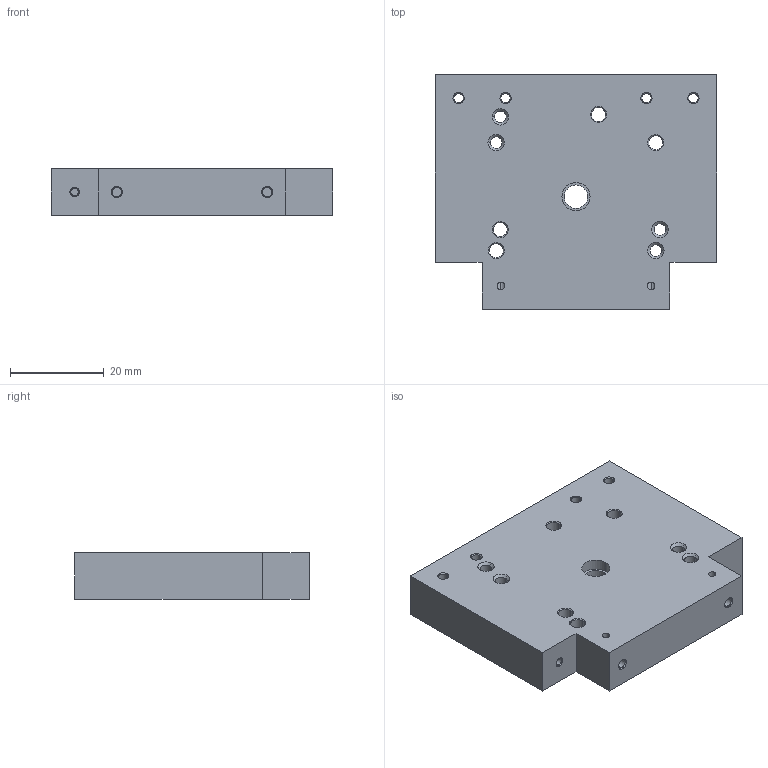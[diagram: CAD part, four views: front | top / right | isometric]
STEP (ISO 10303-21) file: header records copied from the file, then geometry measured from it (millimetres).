
FILE_DESCRIPTION (( 'STEP AP214' ), '1' );
FILE_NAME ('C13_.STEP', '2016-02-27T12:42:08', ( '' ), ( '' ), 'SwSTEP 2.0', 'SolidWorks 2012', '' );
FILE_SCHEMA (( 'AUTOMOTIVE_DESIGN' ));
Length unit declared in the file: millimetre
Products named in the file (1): C13_
Bounding box: 60 x 50 x 10 mm (x, y, z)
Volume: 26886.5 mm3; surface area: 8958.2 mm2
Topology: 1 solids, 1 shells, 148 faces, 364 edges, 224 vertices
Faces by surface type: cone 56, cylinder 41, plane 29, bspline 22
Entity records: 5520 total; most frequent: CARTESIAN_POINT 1999, ORIENTED_EDGE 728, DIRECTION 700, EDGE_CURVE 364, AXIS2_PLACEMENT_3D 261, VERTEX_POINT 224, EDGE_LOOP 184, LINE 178
